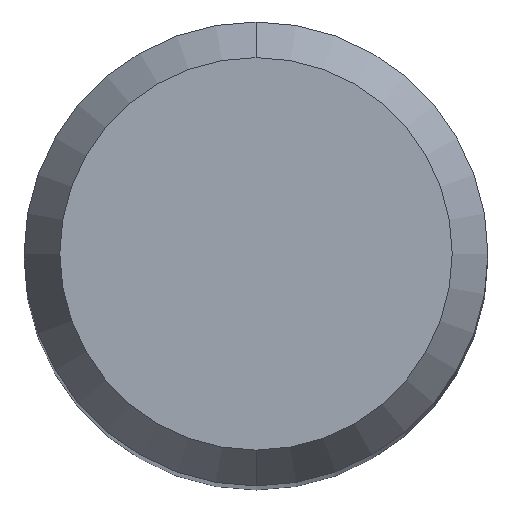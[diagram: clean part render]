
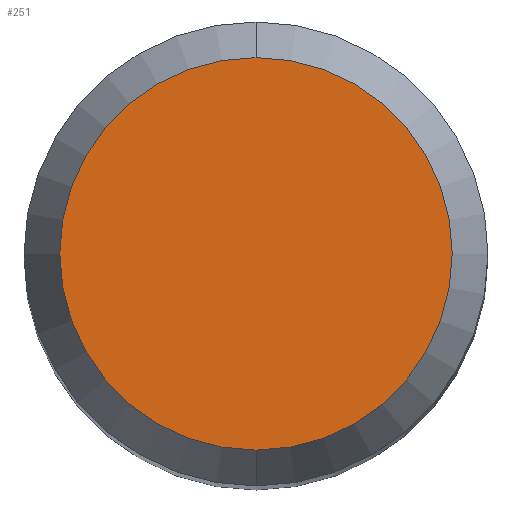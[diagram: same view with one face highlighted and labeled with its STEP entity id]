
A CAD part, top view. The second image highlights one B-rep face of the part: STEP entity #251.
In plain terms, the highlighted planar face has unit normal (0, 0, 1).
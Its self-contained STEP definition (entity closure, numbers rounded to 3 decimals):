
#175=VERTEX_POINT('',#430);
#211=EDGE_CURVE('',#339,#175,#468,.T.);
#223=EDGE_CURVE('',#175,#339,#481,.T.);
#251=ADVANCED_FACE('',(#511),#512,.T.);
#339=VERTEX_POINT('',#607);
#430=CARTESIAN_POINT('',(0.,-2.538,0.0));
#468=CIRCLE('',#800,2.538);
#481=CIRCLE('',#826,2.538);
#511=FACE_OUTER_BOUND('',#909,.T.);
#512=PLANE('',#910);
#607=CARTESIAN_POINT('',(0.0,2.538,0.0));
#800=AXIS2_PLACEMENT_3D('',#1283,#1284,#1285);
#826=AXIS2_PLACEMENT_3D('',#1300,#1301,#1302);
#909=EDGE_LOOP('',(#1333,#1334));
#910=AXIS2_PLACEMENT_3D('',#1335,#1336,#1337);
#1283=CARTESIAN_POINT('',(0.0,0.0,0.0));
#1284=DIRECTION('',(0.0,0.0,-1.0));
#1285=DIRECTION('',(0.0,1.0,0.0));
#1300=CARTESIAN_POINT('',(0.0,0.0,0.0));
#1301=DIRECTION('',(0.0,0.0,-1.0));
#1302=DIRECTION('',(0.0,1.0,0.0));
#1333=ORIENTED_EDGE('',*,*,#211,.F.);
#1334=ORIENTED_EDGE('',*,*,#223,.F.);
#1335=CARTESIAN_POINT('',(0.0,1.269,0.0));
#1336=DIRECTION('',(-0.0,0.0,1.0));
#1337=DIRECTION('',(0.0,-1.0,0.0));
